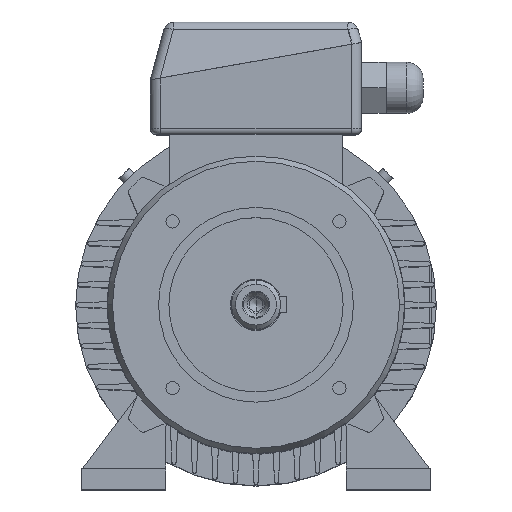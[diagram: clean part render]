
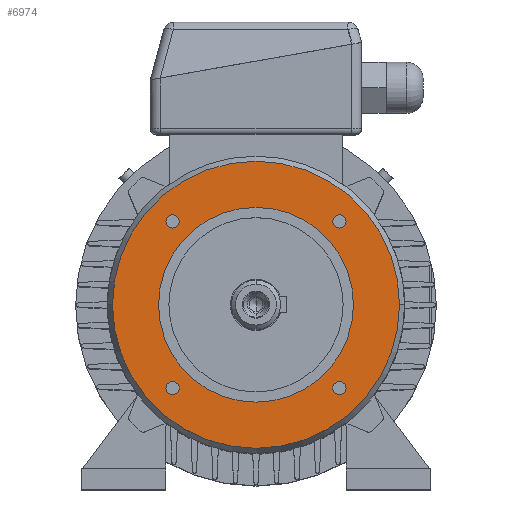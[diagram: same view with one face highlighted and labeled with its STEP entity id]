
A CAD part, top view. The second image highlights one B-rep face of the part: STEP entity #6974.
In plain terms, the highlighted planar face has unit normal (0, 0, 1).
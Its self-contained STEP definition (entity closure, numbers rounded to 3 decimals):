
#661 = CARTESIAN_POINT ( 'NONE',  ( -43.909, -40.659, 40. ) ) ;
#860 = ORIENTED_EDGE ( 'NONE', *, *, #7309, .F. ) ;
#960 = CIRCLE ( 'NONE', #961, 3.25 ) ;
#961 = AXIS2_PLACEMENT_3D ( 'NONE', #964, #965, #966 ) ;
#964 = CARTESIAN_POINT ( 'NONE',  ( -40.659, 40.659, 40. ) ) ;
#965 = DIRECTION ( 'NONE',  ( 0., 0., 1. ) ) ;
#966 = DIRECTION ( 'NONE',  ( 1., 0., 0. ) ) ;
#1452 = ORIENTED_EDGE ( 'NONE', *, *, #4592, .F. ) ;
#1826 = FACE_BOUND ( 'NONE', #6894, .T. ) ;
#1827 = FACE_BOUND ( 'NONE', #6480, .T. ) ;
#1828 = FACE_BOUND ( 'NONE', #9430, .T. ) ;
#1833 = FACE_BOUND ( 'NONE', #7953, .T. ) ;
#1834 = FACE_BOUND ( 'NONE', #7550, .T. ) ;
#1835 = FACE_OUTER_BOUND ( 'NONE', #2029, .T. ) ;
#1836 = PLANE ( 'NONE',  #1837 ) ;
#1837 = AXIS2_PLACEMENT_3D ( 'NONE', #1838, #1839, #1840 ) ;
#1838 = CARTESIAN_POINT ( 'NONE',  ( 0., 70., 40. ) ) ;
#1839 = DIRECTION ( 'NONE',  ( 0., 0., 1. ) ) ;
#1840 = DIRECTION ( 'NONE',  ( 0., -1., 0. ) ) ;
#2029 = EDGE_LOOP ( 'NONE', ( #1452, #860 ) ) ;
#2301 = EDGE_CURVE ( 'NONE', #10574, #6039, #9276, .T. ) ;
#2557 = CIRCLE ( 'NONE', #2558, 70. ) ;
#2558 = AXIS2_PLACEMENT_3D ( 'NONE', #2559, #2560, #2561 ) ;
#2559 = CARTESIAN_POINT ( 'NONE',  ( 0., 0., 40. ) ) ;
#2560 = DIRECTION ( 'NONE',  ( 0., 0., -1. ) ) ;
#2561 = DIRECTION ( 'NONE',  ( 0., 1., 0. ) ) ;
#2719 = ORIENTED_EDGE ( 'NONE', *, *, #2301, .T. ) ;
#3231 = CARTESIAN_POINT ( 'NONE',  ( 37.409, -40.659, 40. ) ) ;
#3356 = VERTEX_POINT ( 'NONE', #9722 ) ;
#3453 = CIRCLE ( 'NONE', #3459, 3.25 ) ;
#3459 = AXIS2_PLACEMENT_3D ( 'NONE', #3460, #3461, #3462 ) ;
#3460 = CARTESIAN_POINT ( 'NONE',  ( 40.659, 40.659, 40. ) ) ;
#3461 = DIRECTION ( 'NONE',  ( 0., 0., 1. ) ) ;
#3462 = DIRECTION ( 'NONE',  ( 1., 0., 0. ) ) ;
#3705 = VERTEX_POINT ( 'NONE', #9876 ) ;
#3937 = EDGE_CURVE ( 'NONE', #4931, #3705, #9984, .T. ) ;
#4103 = VERTEX_POINT ( 'NONE', #10032 ) ;
#4285 = CIRCLE ( 'NONE', #4286, 3.25 ) ;
#4286 = AXIS2_PLACEMENT_3D ( 'NONE', #4287, #4288, #4292 ) ;
#4287 = CARTESIAN_POINT ( 'NONE',  ( 40.659, -40.659, 40. ) ) ;
#4288 = DIRECTION ( 'NONE',  ( 0., 0., 1. ) ) ;
#4292 = DIRECTION ( 'NONE',  ( 1., 0., 0. ) ) ;
#4355 = VERTEX_POINT ( 'NONE', #10155 ) ;
#4592 = EDGE_CURVE ( 'NONE', #4355, #4103, #10286, .T. ) ;
#4931 = VERTEX_POINT ( 'NONE', #10516 ) ;
#5444 = CARTESIAN_POINT ( 'NONE',  ( 0., -47.5, 40. ) ) ;
#5473 = CIRCLE ( 'NONE', #5474, 3.25 ) ;
#5474 = AXIS2_PLACEMENT_3D ( 'NONE', #5478, #5479, #5480 ) ;
#5478 = CARTESIAN_POINT ( 'NONE',  ( 40.659, -40.659, 40. ) ) ;
#5479 = DIRECTION ( 'NONE',  ( 0., 0., 1. ) ) ;
#5480 = DIRECTION ( 'NONE',  ( 1., 0., 0. ) ) ;
#5785 = ORIENTED_EDGE ( 'NONE', *, *, #6092, .T. ) ;
#5902 = VERTEX_POINT ( 'NONE', #11262 ) ;
#5955 = EDGE_CURVE ( 'NONE', #6166, #5902, #11389, .T. ) ;
#6039 = VERTEX_POINT ( 'NONE', #11566 ) ;
#6092 = EDGE_CURVE ( 'NONE', #6039, #10574, #11692, .T. ) ;
#6166 = VERTEX_POINT ( 'NONE', #11873 ) ;
#6250 = EDGE_CURVE ( 'NONE', #6328, #6604, #12055, .T. ) ;
#6328 = VERTEX_POINT ( 'NONE', #12194 ) ;
#6358 = ORIENTED_EDGE ( 'NONE', *, *, #6250, .F. ) ;
#6387 = EDGE_CURVE ( 'NONE', #6604, #6328, #12341, .T. ) ;
#6480 = EDGE_LOOP ( 'NONE', ( #6358, #9704 ) ) ;
#6545 = ORIENTED_EDGE ( 'NONE', *, *, #3937, .F. ) ;
#6604 = VERTEX_POINT ( 'NONE', #661 ) ;
#6672 = EDGE_CURVE ( 'NONE', #3705, #4931, #960, .T. ) ;
#6775 = ORIENTED_EDGE ( 'NONE', *, *, #6672, .F. ) ;
#6894 = EDGE_LOOP ( 'NONE', ( #6775, #6545 ) ) ;
#6974 = ADVANCED_FACE ( 'NONE', ( #1826, #1827, #1828, #1833, #1834, #1835 ), #1836, .T. ) ;
#7309 = EDGE_CURVE ( 'NONE', #4103, #4355, #2557, .T. ) ;
#7550 = EDGE_LOOP ( 'NONE', ( #5785, #2719 ) ) ;
#7612 = ORIENTED_EDGE ( 'NONE', *, *, #5955, .F. ) ;
#7644 = VERTEX_POINT ( 'NONE', #3231 ) ;
#7742 = EDGE_CURVE ( 'NONE', #5902, #6166, #3453, .T. ) ;
#7834 = ORIENTED_EDGE ( 'NONE', *, *, #7742, .F. ) ;
#7953 = EDGE_LOOP ( 'NONE', ( #7834, #7612 ) ) ;
#8022 = ORIENTED_EDGE ( 'NONE', *, *, #10691, .F. ) ;
#8257 = EDGE_CURVE ( 'NONE', #3356, #7644, #4285, .T. ) ;
#8671 = ORIENTED_EDGE ( 'NONE', *, *, #8257, .F. ) ;
#9276 = CIRCLE ( 'NONE', #9277, 47.5 ) ;
#9277 = AXIS2_PLACEMENT_3D ( 'NONE', #9278, #9279, #9280 ) ;
#9278 = CARTESIAN_POINT ( 'NONE',  ( 0., 0., 40. ) ) ;
#9279 = DIRECTION ( 'NONE',  ( 0., 0., -1. ) ) ;
#9280 = DIRECTION ( 'NONE',  ( 0., 1., 0. ) ) ;
#9430 = EDGE_LOOP ( 'NONE', ( #8671, #8022 ) ) ;
#9704 = ORIENTED_EDGE ( 'NONE', *, *, #6387, .F. ) ;
#9722 = CARTESIAN_POINT ( 'NONE',  ( 43.909, -40.659, 40. ) ) ;
#9876 = CARTESIAN_POINT ( 'NONE',  ( -37.409, 40.659, 40. ) ) ;
#9984 = CIRCLE ( 'NONE', #9985, 3.25 ) ;
#9985 = AXIS2_PLACEMENT_3D ( 'NONE', #9986, #9987, #9988 ) ;
#9986 = CARTESIAN_POINT ( 'NONE',  ( -40.659, 40.659, 40. ) ) ;
#9987 = DIRECTION ( 'NONE',  ( 0., 0., 1. ) ) ;
#9988 = DIRECTION ( 'NONE',  ( 1., 0., 0. ) ) ;
#10032 = CARTESIAN_POINT ( 'NONE',  ( 0., -70., 40. ) ) ;
#10155 = CARTESIAN_POINT ( 'NONE',  ( 0., 70., 40. ) ) ;
#10286 = CIRCLE ( 'NONE', #10287, 70. ) ;
#10287 = AXIS2_PLACEMENT_3D ( 'NONE', #10288, #10289, #10290 ) ;
#10288 = CARTESIAN_POINT ( 'NONE',  ( 0., 0., 40. ) ) ;
#10289 = DIRECTION ( 'NONE',  ( 0., 0., -1. ) ) ;
#10290 = DIRECTION ( 'NONE',  ( 0., 1., 0. ) ) ;
#10516 = CARTESIAN_POINT ( 'NONE',  ( -43.909, 40.659, 40. ) ) ;
#10574 = VERTEX_POINT ( 'NONE', #5444 ) ;
#10691 = EDGE_CURVE ( 'NONE', #7644, #3356, #5473, .T. ) ;
#11262 = CARTESIAN_POINT ( 'NONE',  ( 43.909, 40.659, 40. ) ) ;
#11389 = CIRCLE ( 'NONE', #11390, 3.25 ) ;
#11390 = AXIS2_PLACEMENT_3D ( 'NONE', #11391, #11392, #11393 ) ;
#11391 = CARTESIAN_POINT ( 'NONE',  ( 40.659, 40.659, 40. ) ) ;
#11392 = DIRECTION ( 'NONE',  ( 0., 0., 1. ) ) ;
#11393 = DIRECTION ( 'NONE',  ( 1., 0., 0. ) ) ;
#11566 = CARTESIAN_POINT ( 'NONE',  ( 0., 47.5, 40. ) ) ;
#11692 = CIRCLE ( 'NONE', #11693, 47.5 ) ;
#11693 = AXIS2_PLACEMENT_3D ( 'NONE', #11694, #11695, #11696 ) ;
#11694 = CARTESIAN_POINT ( 'NONE',  ( 0., 0., 40. ) ) ;
#11695 = DIRECTION ( 'NONE',  ( 0., 0., -1. ) ) ;
#11696 = DIRECTION ( 'NONE',  ( 0., 1., 0. ) ) ;
#11873 = CARTESIAN_POINT ( 'NONE',  ( 37.409, 40.659, 40. ) ) ;
#12055 = CIRCLE ( 'NONE', #12056, 3.25 ) ;
#12056 = AXIS2_PLACEMENT_3D ( 'NONE', #12057, #12058, #12059 ) ;
#12057 = CARTESIAN_POINT ( 'NONE',  ( -40.659, -40.659, 40. ) ) ;
#12058 = DIRECTION ( 'NONE',  ( 0., 0., 1. ) ) ;
#12059 = DIRECTION ( 'NONE',  ( 1., 0., 0. ) ) ;
#12194 = CARTESIAN_POINT ( 'NONE',  ( -37.409, -40.659, 40. ) ) ;
#12341 = CIRCLE ( 'NONE', #12342, 3.25 ) ;
#12342 = AXIS2_PLACEMENT_3D ( 'NONE', #12343, #12344, #12345 ) ;
#12343 = CARTESIAN_POINT ( 'NONE',  ( -40.659, -40.659, 40. ) ) ;
#12344 = DIRECTION ( 'NONE',  ( 0., 0., 1. ) ) ;
#12345 = DIRECTION ( 'NONE',  ( 1., 0., 0. ) ) ;
